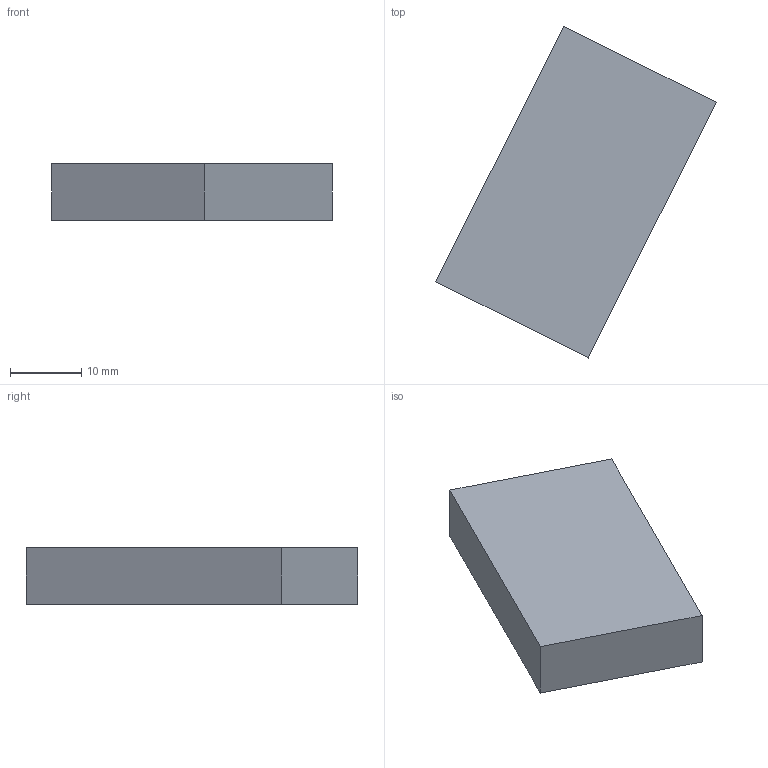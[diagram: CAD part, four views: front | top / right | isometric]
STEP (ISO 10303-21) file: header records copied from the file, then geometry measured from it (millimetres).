
FILE_DESCRIPTION(('Open CASCADE Model'),'2;1');
FILE_NAME('Open CASCADE Shape Model','2026-10-04T01:02:33',('Author'),( 'Open CASCADE'),'Open CASCADE STEP processor 8.0','Open CASCADE 8.0' ,'Unknown');
FILE_SCHEMA(('AUTOMOTIVE_DESIGN { 1 0 10303 214 1 1 1 1 }'));
Length unit declared in the file: millimetre
Products named in the file (1): Open CASCADE STEP translator 8.0 340
Bounding box: 39.47 x 46.73 x 8 mm (x, y, z)
Volume: 7727.9 mm3; surface area: 2960 mm2
Topology: 1 solids, 1 shells, 6 faces, 12 edges, 8 vertices
Faces by surface type: plane 6
Entity records: 322 total; most frequent: CARTESIAN_POINT 51, DIRECTION 50, LINE 36, VECTOR 36, ORIENTED_EDGE 24, PCURVE 24, DEFINITIONAL_REPRESENTATION 24, EDGE_CURVE 12
